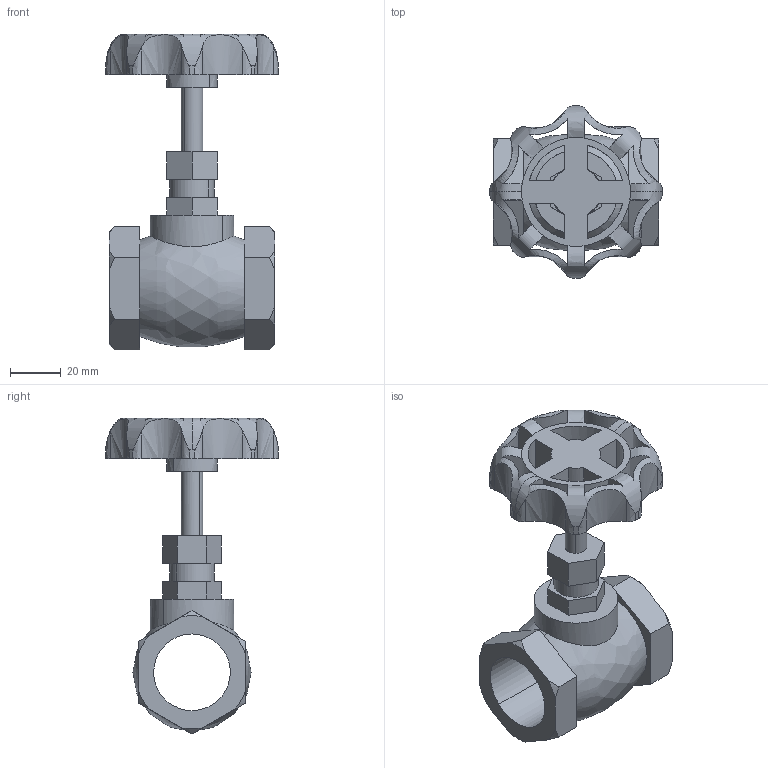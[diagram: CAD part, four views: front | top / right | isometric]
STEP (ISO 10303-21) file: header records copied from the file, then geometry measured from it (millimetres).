
FILE_DESCRIPTION((''),'2;1');
FILE_NAME('','2018-10-23T13:22:32',(''),(''),'','CADfix','');
FILE_SCHEMA(('AUTOMOTIVE_DESIGN { 1 0 10303 214 1 1 1 1 }'));
Length unit declared in the file: millimetre
Bounding box: 68 x 67.98 x 124.24 mm (x, y, z)
Volume: 98090.6 mm3; surface area: 36535.3 mm2
Topology: 1 solids, 1 shells, 145 faces, 479 edges, 332 vertices
Faces by surface type: bspline 145
Entity records: 7900 total; most frequent: CARTESIAN_POINT 5120, ORIENTED_EDGE 958, EDGE_CURVE 479, VERTEX_POINT 332, QUASI_UNIFORM_CURVE 226, B_SPLINE_CURVE_WITH_KNOTS 225, EDGE_LOOP 167, FACE_OUTER_BOUND 145
